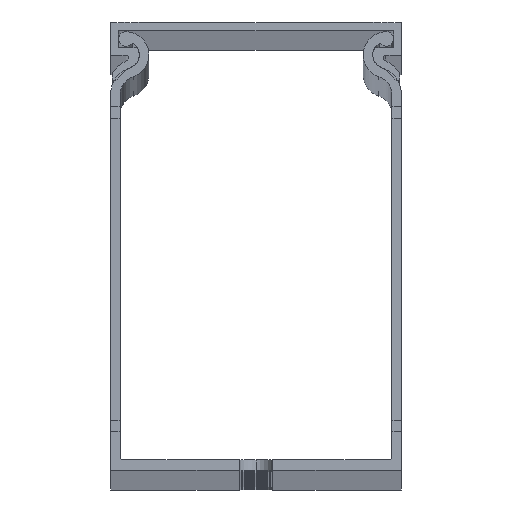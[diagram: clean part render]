
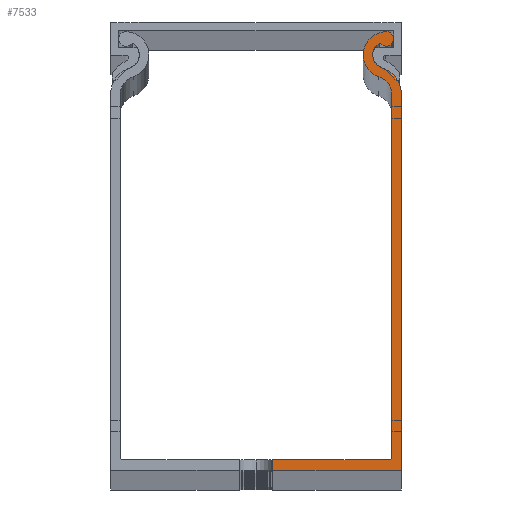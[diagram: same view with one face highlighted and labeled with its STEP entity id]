
A CAD part, top view. The second image highlights one B-rep face of the part: STEP entity #7533.
In plain terms, the highlighted planar face has unit normal (0, 0, 1).
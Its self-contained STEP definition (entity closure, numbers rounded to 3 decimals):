
#58 = EDGE_CURVE ( 'NONE', #26614, #58995, #11588, .T. ) ;
#284 = CARTESIAN_POINT ( 'NONE',  ( 2591.029, 1295.408, 2000. ) ) ;
#827 = EDGE_CURVE ( 'NONE', #32555, #62139, #50250, .T. ) ;
#1637 = CIRCLE ( 'NONE', #16914, 3.4 ) ;
#1910 = EDGE_LOOP ( 'NONE', ( #29198, #10904, #6975, #61153, #13334, #2003, #36720, #61603, #25189, #24595, #51565, #53353, #47923 ) ) ;
#2003 = ORIENTED_EDGE ( 'NONE', *, *, #58093, .T. ) ;
#2012 = VECTOR ( 'NONE', #26545, 1000. ) ;
#2446 = CARTESIAN_POINT ( 'NONE',  ( 2592.707, 1284.203, 2000. ) ) ;
#2521 = PLANE ( 'NONE',  #61837 ) ;
#3024 = DIRECTION ( 'NONE',  ( 0., 0., -1. ) ) ;
#4693 = CIRCLE ( 'NONE', #55435, 1.35 ) ;
#4809 = EDGE_CURVE ( 'NONE', #12612, #35550, #4693, .T. ) ;
#5848 = DIRECTION ( 'NONE',  ( -1., 0., 0. ) ) ;
#6064 = CARTESIAN_POINT ( 'NONE',  ( 2568.407, 1218.956, 2000. ) ) ;
#6880 = EDGE_CURVE ( 'NONE', #8050, #26614, #40884, .T. ) ;
#6975 = ORIENTED_EDGE ( 'NONE', *, *, #6880, .T. ) ;
#7533 = ADVANCED_FACE ( 'NONE', ( #22900 ), #2521, .T. ) ;
#7784 = CARTESIAN_POINT ( 'NONE',  ( 2589.255, 1291.356, 2000. ) ) ;
#7890 = CARTESIAN_POINT ( 'NONE',  ( 2571.407, 1284.233, 2000. ) ) ;
#7918 = CARTESIAN_POINT ( 'NONE',  ( 2547.507, 1284.233, 2000. ) ) ;
#8050 = VERTEX_POINT ( 'NONE', #24988 ) ;
#9650 = DIRECTION ( 'NONE',  ( 1., 0., 0. ) ) ;
#10617 = DIRECTION ( 'NONE',  ( 0., 0., -1. ) ) ;
#10904 = ORIENTED_EDGE ( 'NONE', *, *, #17882, .T. ) ;
#11588 = CIRCLE ( 'NONE', #57432, 5.1 ) ;
#12612 = VERTEX_POINT ( 'NONE', #61412 ) ;
#12914 = CIRCLE ( 'NONE', #30873, 2.4 ) ;
#13334 = ORIENTED_EDGE ( 'NONE', *, *, #46678, .T. ) ;
#15621 = CARTESIAN_POINT ( 'NONE',  ( 2571.407, 1218.956, 2000. ) ) ;
#15848 = CARTESIAN_POINT ( 'NONE',  ( 2594.407, 1217.056, 2000. ) ) ;
#15859 = CARTESIAN_POINT ( 'NONE',  ( 2592.207, 1219.456, 2000. ) ) ;
#16155 = DIRECTION ( 'NONE',  ( 1., 0., 0. ) ) ;
#16899 = DIRECTION ( 'NONE',  ( 0., 0., 1. ) ) ;
#16914 = AXIS2_PLACEMENT_3D ( 'NONE', #46906, #3024, #37770 ) ;
#17084 = DIRECTION ( 'NONE',  ( 1., 0., 0. ) ) ;
#17138 = DIRECTION ( 'NONE',  ( 1., 0., 0. ) ) ;
#17882 = EDGE_CURVE ( 'NONE', #60386, #8050, #56166, .T. ) ;
#17936 = DIRECTION ( 'NONE',  ( 1., 0., 0. ) ) ;
#18350 = CARTESIAN_POINT ( 'NONE',  ( 2591.657, 1294.213, 2000. ) ) ;
#18489 = DIRECTION ( 'NONE',  ( 1., 0., 0. ) ) ;
#18869 = CARTESIAN_POINT ( 'NONE',  ( 2590.904, 1289.077, 2000. ) ) ;
#18930 = CARTESIAN_POINT ( 'NONE',  ( 2590.372, 1287.462, 2000. ) ) ;
#20634 = DIRECTION ( 'NONE',  ( 1., 0., 0. ) ) ;
#22900 = FACE_OUTER_BOUND ( 'NONE', #1910, .T. ) ;
#24467 = VERTEX_POINT ( 'NONE', #7784 ) ;
#24595 = ORIENTED_EDGE ( 'NONE', *, *, #52229, .T. ) ;
#24667 = CARTESIAN_POINT ( 'NONE',  ( 2591.655, 1291.356, 2000. ) ) ;
#24988 = CARTESIAN_POINT ( 'NONE',  ( 2594.407, 1217.056, 2000. ) ) ;
#25189 = ORIENTED_EDGE ( 'NONE', *, *, #30144, .T. ) ;
#25286 = LINE ( 'NONE', #7890, #48553 ) ;
#26545 = DIRECTION ( 'NONE',  ( 0., 1., 0. ) ) ;
#26614 = VERTEX_POINT ( 'NONE', #57402 ) ;
#28522 = VERTEX_POINT ( 'NONE', #2446 ) ;
#29198 = ORIENTED_EDGE ( 'NONE', *, *, #34502, .F. ) ;
#29562 = AXIS2_PLACEMENT_3D ( 'NONE', #15859, #10617, #20634 ) ;
#30144 = EDGE_CURVE ( 'NONE', #41104, #61908, #30703, .T. ) ;
#30552 = DIRECTION ( 'NONE',  ( 0., -1., 0. ) ) ;
#30703 = CIRCLE ( 'NONE', #53281, 4.1 ) ;
#30753 = DIRECTION ( 'NONE',  ( 1., 0., 0. ) ) ;
#30873 = AXIS2_PLACEMENT_3D ( 'NONE', #24667, #44428, #9650 ) ;
#31740 = EDGE_CURVE ( 'NONE', #28522, #54269, #44698, .T. ) ;
#32095 = VECTOR ( 'NONE', #54501, 1000. ) ;
#32555 = VERTEX_POINT ( 'NONE', #38036 ) ;
#34502 = EDGE_CURVE ( 'NONE', #60386, #62139, #25286, .T. ) ;
#35121 = CARTESIAN_POINT ( 'NONE',  ( 2589.307, 1284.233, 2000. ) ) ;
#35550 = VERTEX_POINT ( 'NONE', #284 ) ;
#35574 = CARTESIAN_POINT ( 'NONE',  ( 2592.707, 1219.456, 2000. ) ) ;
#36127 = DIRECTION ( 'NONE',  ( 0., 0., -1. ) ) ;
#36720 = ORIENTED_EDGE ( 'NONE', *, *, #4809, .T. ) ;
#37092 = VECTOR ( 'NONE', #5848, 1000. ) ;
#37770 = DIRECTION ( 'NONE',  ( 1., 0., 0. ) ) ;
#37867 = DIRECTION ( 'NONE',  ( 0., 1., 0. ) ) ;
#38036 = CARTESIAN_POINT ( 'NONE',  ( 2592.207, 1218.956, 2000. ) ) ;
#38115 = DIRECTION ( 'NONE',  ( 0., 0., 1. ) ) ;
#40884 = LINE ( 'NONE', #15848, #2012 ) ;
#41104 = VERTEX_POINT ( 'NONE', #49515 ) ;
#41915 = CARTESIAN_POINT ( 'NONE',  ( 2591.655, 1291.356, 2000. ) ) ;
#44428 = DIRECTION ( 'NONE',  ( 0., 0., -1. ) ) ;
#44698 = LINE ( 'NONE', #49634, #50099 ) ;
#45900 = CARTESIAN_POINT ( 'NONE',  ( 2591.655, 1291.356, 2000. ) ) ;
#46678 = EDGE_CURVE ( 'NONE', #58995, #24467, #60356, .T. ) ;
#46906 = CARTESIAN_POINT ( 'NONE',  ( 2589.307, 1284.233, 2000. ) ) ;
#47249 = EDGE_CURVE ( 'NONE', #54269, #32555, #62166, .T. ) ;
#47923 = ORIENTED_EDGE ( 'NONE', *, *, #827, .T. ) ;
#48216 = CARTESIAN_POINT ( 'NONE',  ( 2591.655, 1291.356, 2000. ) ) ;
#48553 = VECTOR ( 'NONE', #37867, 1000. ) ;
#49515 = CARTESIAN_POINT ( 'NONE',  ( 2587.555, 1291.356, 2000. ) ) ;
#49634 = CARTESIAN_POINT ( 'NONE',  ( 2592.707, 1284.203, 2000. ) ) ;
#49936 = CARTESIAN_POINT ( 'NONE',  ( 2568.407, 1217.056, 2000. ) ) ;
#50069 = DIRECTION ( 'NONE',  ( 0., 0., 1. ) ) ;
#50099 = VECTOR ( 'NONE', #30552, 1000. ) ;
#50250 = LINE ( 'NONE', #6064, #37092 ) ;
#50735 = AXIS2_PLACEMENT_3D ( 'NONE', #45900, #36127, #16155 ) ;
#51565 = ORIENTED_EDGE ( 'NONE', *, *, #31740, .T. ) ;
#52229 = EDGE_CURVE ( 'NONE', #61908, #28522, #1637, .T. ) ;
#53281 = AXIS2_PLACEMENT_3D ( 'NONE', #41915, #16899, #17138 ) ;
#53353 = ORIENTED_EDGE ( 'NONE', *, *, #47249, .T. ) ;
#54269 = VERTEX_POINT ( 'NONE', #35574 ) ;
#54501 = DIRECTION ( 'NONE',  ( 1., 0., 0. ) ) ;
#55301 = CARTESIAN_POINT ( 'NONE',  ( 2571.407, 1217.056, 2000. ) ) ;
#55435 = AXIS2_PLACEMENT_3D ( 'NONE', #18350, #38115, #17936 ) ;
#56166 = LINE ( 'NONE', #49936, #32095 ) ;
#56381 = EDGE_CURVE ( 'NONE', #35550, #41104, #59022, .T. ) ;
#57402 = CARTESIAN_POINT ( 'NONE',  ( 2594.407, 1284.196, 2000. ) ) ;
#57432 = AXIS2_PLACEMENT_3D ( 'NONE', #35121, #50069, #30753 ) ;
#57971 = DIRECTION ( 'NONE',  ( 0., 0., 1. ) ) ;
#58093 = EDGE_CURVE ( 'NONE', #24467, #12612, #12914, .T. ) ;
#58995 = VERTEX_POINT ( 'NONE', #18869 ) ;
#59022 = CIRCLE ( 'NONE', #60761, 4.1 ) ;
#60356 = CIRCLE ( 'NONE', #50735, 2.4 ) ;
#60386 = VERTEX_POINT ( 'NONE', #55301 ) ;
#60761 = AXIS2_PLACEMENT_3D ( 'NONE', #48216, #57971, #18489 ) ;
#61153 = ORIENTED_EDGE ( 'NONE', *, *, #58, .T. ) ;
#61412 = CARTESIAN_POINT ( 'NONE',  ( 2590.527, 1293.474, 2000. ) ) ;
#61603 = ORIENTED_EDGE ( 'NONE', *, *, #56381, .T. ) ;
#61837 = AXIS2_PLACEMENT_3D ( 'NONE', #7918, #62454, #17084 ) ;
#61908 = VERTEX_POINT ( 'NONE', #18930 ) ;
#62139 = VERTEX_POINT ( 'NONE', #15621 ) ;
#62166 = CIRCLE ( 'NONE', #29562, 0.5 ) ;
#62454 = DIRECTION ( 'NONE',  ( 0., 0., 1. ) ) ;
